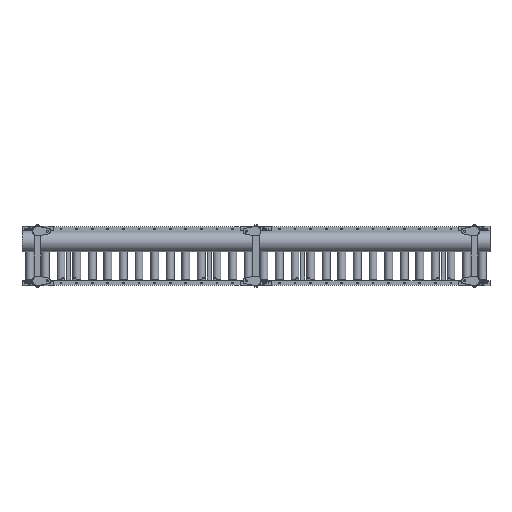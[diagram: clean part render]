
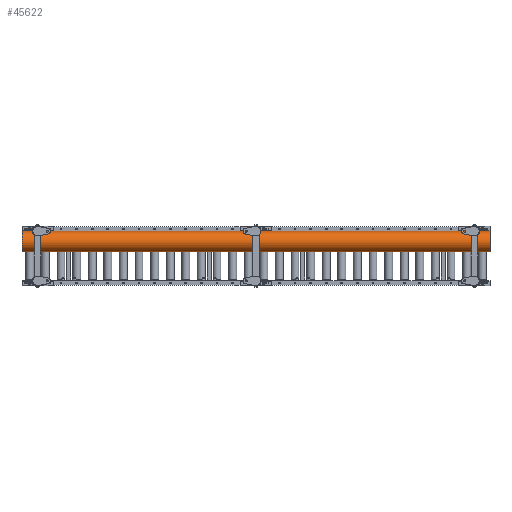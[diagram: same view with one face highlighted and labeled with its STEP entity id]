
A CAD part, front view. The second image highlights one B-rep face of the part: STEP entity #45622.
In plain terms, the highlighted cylindrical face has radius 66.89 mm (diameter 133.78 mm), a partial arc.
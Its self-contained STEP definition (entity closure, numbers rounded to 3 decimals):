
#1458 = CARTESIAN_POINT ( 'NONE',  ( 0., -150., 159.5 ) ) ;
#16073 = VECTOR ( 'NONE', #37036, 1000. ) ;
#21239 = CARTESIAN_POINT ( 'NONE',  ( 0., -150., 25.72 ) ) ;
#25855 = ORIENTED_EDGE ( 'NONE', *, *, #38555, .T. ) ;
#35567 = ORIENTED_EDGE ( 'NONE', *, *, #91164, .F. ) ;
#36437 = CARTESIAN_POINT ( 'NONE',  ( -3177.652, -150., 159.5 ) ) ;
#37036 = DIRECTION ( 'NONE',  ( 1., 0., 0. ) ) ;
#38555 = EDGE_CURVE ( 'NONE', #112474, #65221, #170444, .T. ) ;
#39158 = AXIS2_PLACEMENT_3D ( 'NONE', #42188, #138326, #136573 ) ;
#42188 = CARTESIAN_POINT ( 'NONE',  ( -3000., -150., 92.61 ) ) ;
#45622 = ADVANCED_FACE ( 'NONE', ( #151022 ), #77695, .T. ) ;
#50014 = DIRECTION ( 'NONE',  ( 1., 0., 0. ) ) ;
#54285 = CARTESIAN_POINT ( 'NONE',  ( -3000., -150., 25.72 ) ) ;
#54936 = EDGE_CURVE ( 'NONE', #95841, #119213, #108452, .T. ) ;
#55603 = CARTESIAN_POINT ( 'NONE',  ( -3177.652, -150., 92.61 ) ) ;
#59323 = DIRECTION ( 'NONE',  ( 0., 0., 1. ) ) ;
#59919 = DIRECTION ( 'NONE',  ( 1., 0., 0. ) ) ;
#65221 = VERTEX_POINT ( 'NONE', #21239 ) ;
#77695 = CYLINDRICAL_SURFACE ( 'NONE', #128373, 66.89 ) ;
#88769 = CARTESIAN_POINT ( 'NONE',  ( 0., -150., 92.61 ) ) ;
#91164 = EDGE_CURVE ( 'NONE', #112474, #95841, #101365, .T. ) ;
#95841 = VERTEX_POINT ( 'NONE', #151824 ) ;
#97221 = EDGE_LOOP ( 'NONE', ( #35567, #25855, #112405, #100607 ) ) ;
#100035 = EDGE_CURVE ( 'NONE', #119213, #65221, #153946, .T. ) ;
#100607 = ORIENTED_EDGE ( 'NONE', *, *, #54936, .F. ) ;
#101365 = CIRCLE ( 'NONE', #39158, 66.89 ) ;
#105901 = CARTESIAN_POINT ( 'NONE',  ( -3177.652, -150., 25.72 ) ) ;
#108452 = LINE ( 'NONE', #36437, #16073 ) ;
#112405 = ORIENTED_EDGE ( 'NONE', *, *, #100035, .F. ) ;
#112474 = VERTEX_POINT ( 'NONE', #54285 ) ;
#119213 = VERTEX_POINT ( 'NONE', #1458 ) ;
#124795 = DIRECTION ( 'NONE',  ( 1., 0., 0. ) ) ;
#128373 = AXIS2_PLACEMENT_3D ( 'NONE', #55603, #124795, #165030 ) ;
#130586 = AXIS2_PLACEMENT_3D ( 'NONE', #88769, #59919, #59323 ) ;
#136573 = DIRECTION ( 'NONE',  ( 0., 0., -1. ) ) ;
#138326 = DIRECTION ( 'NONE',  ( -1., 0., 0. ) ) ;
#151022 = FACE_OUTER_BOUND ( 'NONE', #97221, .T. ) ;
#151204 = VECTOR ( 'NONE', #50014, 1000. ) ;
#151824 = CARTESIAN_POINT ( 'NONE',  ( -3000., -150., 159.5 ) ) ;
#153946 = CIRCLE ( 'NONE', #130586, 66.89 ) ;
#165030 = DIRECTION ( 'NONE',  ( 0., 0., -1. ) ) ;
#170444 = LINE ( 'NONE', #105901, #151204 ) ;
